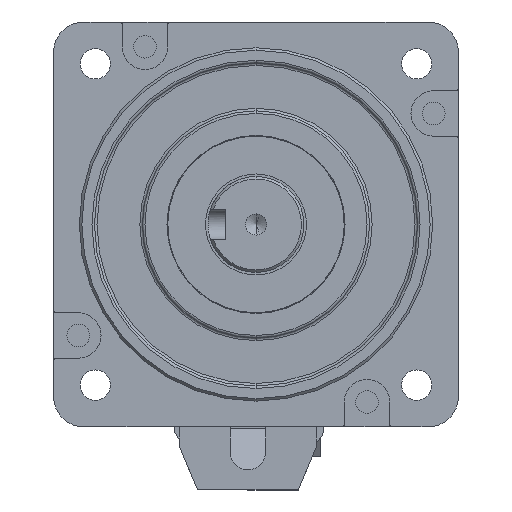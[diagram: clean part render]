
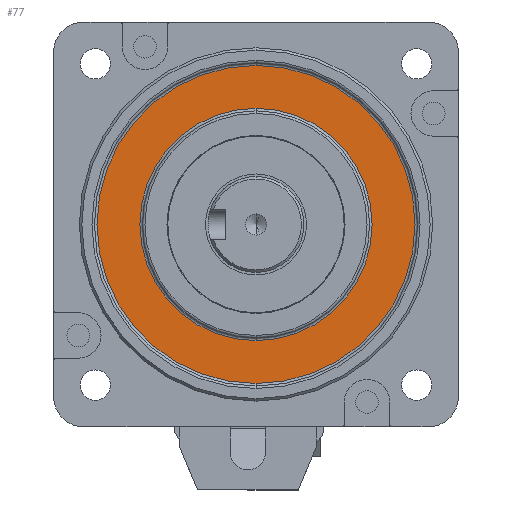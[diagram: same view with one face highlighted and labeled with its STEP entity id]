
A CAD part, left-side view. The second image highlights one B-rep face of the part: STEP entity #77.
In plain terms, the highlighted planar face has unit normal (-1, 0, 0) as drawn and (0, 0, 1) by its records, which use the part's own axes.
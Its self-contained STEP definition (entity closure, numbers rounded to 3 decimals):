
#77 = ADVANCED_FACE ( 'NONE', ( #23741, #2478 ), #23068, .F. ) ;
#634 = CARTESIAN_POINT ( 'NONE',  ( 0., 0., 17. ) ) ;
#1576 = CARTESIAN_POINT ( 'NONE',  ( 0., 0., 17. ) ) ;
#1583 = CIRCLE ( 'NONE', #14896, 31.5 ) ;
#1901 = CARTESIAN_POINT ( 'NONE',  ( 0., 31.5, 17. ) ) ;
#2035 = EDGE_LOOP ( 'NONE', ( #17237, #2495 ) ) ;
#2083 = AXIS2_PLACEMENT_3D ( 'NONE', #1576, #5662, #18215 ) ;
#2478 = FACE_BOUND ( 'NONE', #2035, .T. ) ;
#2495 = ORIENTED_EDGE ( 'NONE', *, *, #9646, .T. ) ;
#3397 = VERTEX_POINT ( 'NONE', #19713 ) ;
#3645 = VERTEX_POINT ( 'NONE', #8824 ) ;
#4516 = AXIS2_PLACEMENT_3D ( 'NONE', #27370, #12586, #17029 ) ;
#5662 = DIRECTION ( 'NONE',  ( 0., 0., -1. ) ) ;
#7798 = VERTEX_POINT ( 'NONE', #15545 ) ;
#8824 = CARTESIAN_POINT ( 'NONE',  ( -23., 0., 17. ) ) ;
#9063 = EDGE_LOOP ( 'NONE', ( #16932, #24628 ) ) ;
#9646 = EDGE_CURVE ( 'NONE', #3397, #3645, #10296, .T. ) ;
#9763 = CARTESIAN_POINT ( 'NONE',  ( 0., 0., 17. ) ) ;
#10296 = CIRCLE ( 'NONE', #4516, 23. ) ;
#11134 = AXIS2_PLACEMENT_3D ( 'NONE', #9763, #11908, #26814 ) ;
#11652 = EDGE_CURVE ( 'NONE', #3645, #3397, #15865, .T. ) ;
#11908 = DIRECTION ( 'NONE',  ( 0., 0., -1. ) ) ;
#12586 = DIRECTION ( 'NONE',  ( 0., 0., -1. ) ) ;
#14516 = DIRECTION ( 'NONE',  ( 0., 0., -1. ) ) ;
#14896 = AXIS2_PLACEMENT_3D ( 'NONE', #634, #22078, #24225 ) ;
#15522 = AXIS2_PLACEMENT_3D ( 'NONE', #1901, #14516, #23159 ) ;
#15545 = CARTESIAN_POINT ( 'NONE',  ( 31.5, 0., 17. ) ) ;
#15766 = EDGE_CURVE ( 'NONE', #7798, #19970, #20016, .T. ) ;
#15865 = CIRCLE ( 'NONE', #2083, 23. ) ;
#16932 = ORIENTED_EDGE ( 'NONE', *, *, #23726, .F. ) ;
#17029 = DIRECTION ( 'NONE',  ( -1., 0., 0. ) ) ;
#17237 = ORIENTED_EDGE ( 'NONE', *, *, #11652, .T. ) ;
#18215 = DIRECTION ( 'NONE',  ( -1., 0., 0. ) ) ;
#19713 = CARTESIAN_POINT ( 'NONE',  ( 23., 0., 17. ) ) ;
#19970 = VERTEX_POINT ( 'NONE', #26621 ) ;
#20016 = CIRCLE ( 'NONE', #11134, 31.5 ) ;
#22078 = DIRECTION ( 'NONE',  ( 0., 0., -1. ) ) ;
#23068 = PLANE ( 'NONE',  #15522 ) ;
#23159 = DIRECTION ( 'NONE',  ( -1., 0., 0. ) ) ;
#23726 = EDGE_CURVE ( 'NONE', #19970, #7798, #1583, .T. ) ;
#23741 = FACE_OUTER_BOUND ( 'NONE', #9063, .T. ) ;
#24225 = DIRECTION ( 'NONE',  ( -1., 0., 0. ) ) ;
#24628 = ORIENTED_EDGE ( 'NONE', *, *, #15766, .F. ) ;
#26621 = CARTESIAN_POINT ( 'NONE',  ( -31.5, 0., 17. ) ) ;
#26814 = DIRECTION ( 'NONE',  ( -1., 0., 0. ) ) ;
#27370 = CARTESIAN_POINT ( 'NONE',  ( 0., 0., 17. ) ) ;
